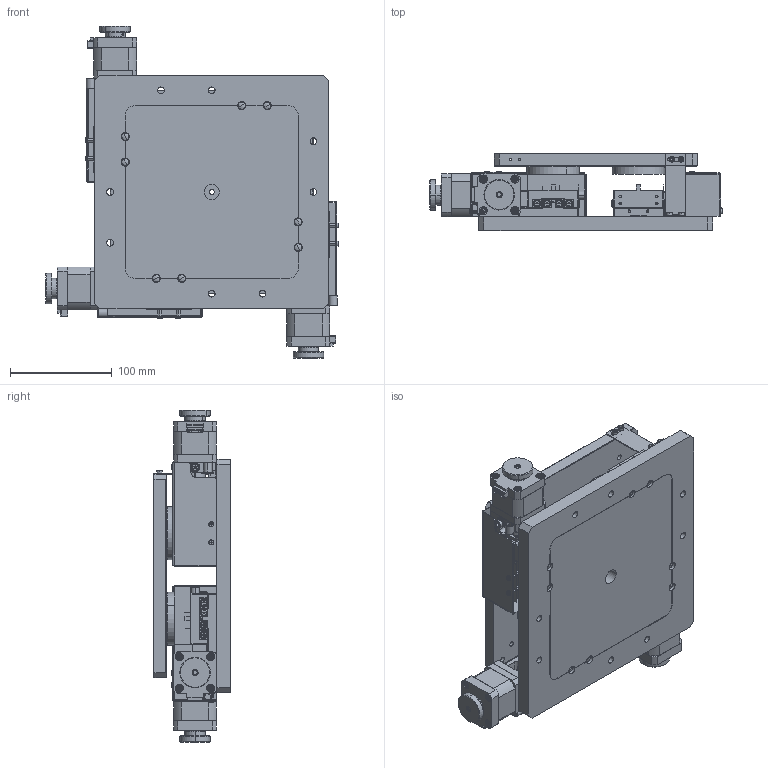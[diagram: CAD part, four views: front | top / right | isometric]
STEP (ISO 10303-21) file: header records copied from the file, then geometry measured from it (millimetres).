
FILE_DESCRIPTION (( 'STEP AP203' ), '1' );
FILE_NAME ('XYR200230.step', '2019-05-06T08:42:30', ( '' ), ( '' ), 'SwSTEP 2.0', 'SolidWorks 2017', '' );
FILE_SCHEMA (( 'CONFIG_CONTROL_DESIGN' ));
Products named in the file (1): XYR200230
Bounding box: 287.7 x 76 x 326.6 mm (x, y, z)
Surface area: 391883.7 mm2 (no closed solid volume)
Topology: 0 solids, 215 shells, 2062 faces, 8037 edges, 5898 vertices
Faces by surface type: plane 1259, cylinder 469, cone 170, torus 112, bspline 30, sphere 22
Entity records: 85373 total; most frequent: CARTESIAN_POINT 18504, DIRECTION 14052, ORIENTED_EDGE 11762, EDGE_CURVE 7963, VERTEX_POINT 5882, LINE 5352, VECTOR 5352, AXIS2_PLACEMENT_3D 4350
